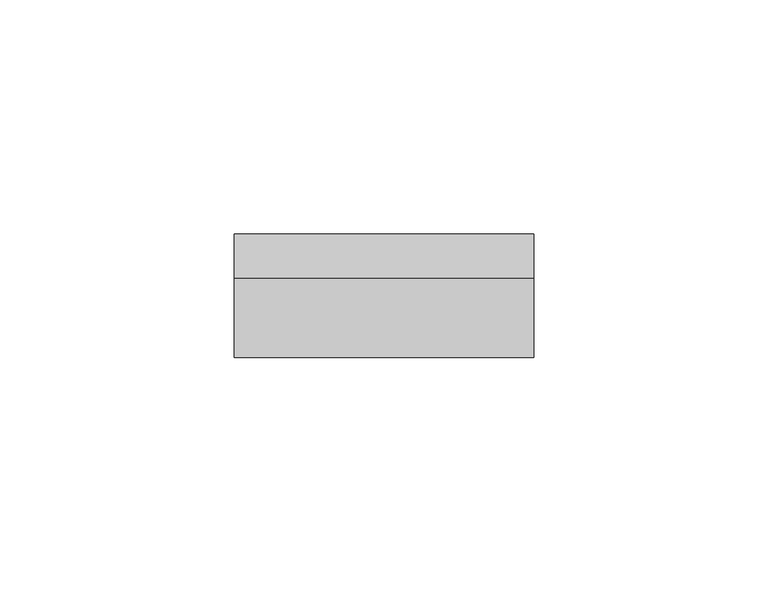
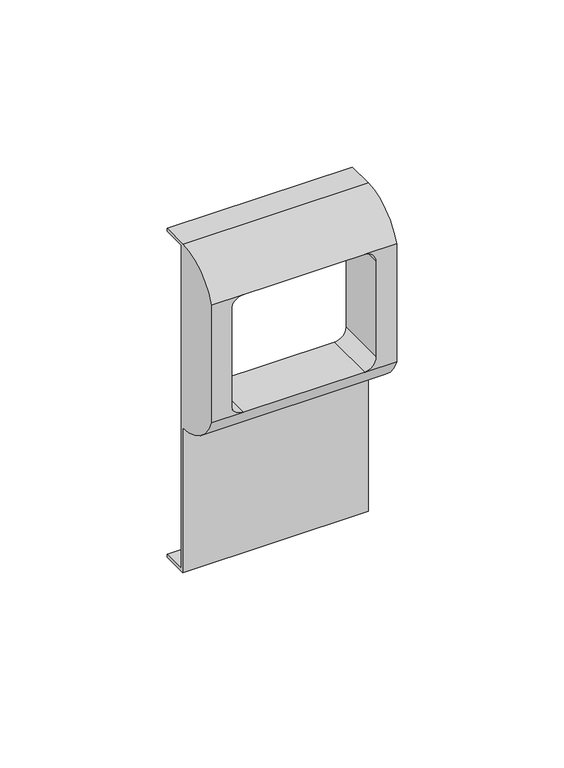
"""IFC4 building model written with IfcOpenShell, lengths in millimetres: proxy geometry."""

from ifc_helpers import new_model, si_unit, frame, origin, place, context, project, spatial, polyline, circle_curve, source, transform, mapped, element, save
from ifc_brep_helpers import plane_surface, cylinder_surface, revolved_surface, advanced_brep


def electrical_fixtures_3ef248d6(model_context):
    return source(origin(), model_context, "Body", "AdvancedBrep", [
        advanced_brep(
        [(32.0, 8.4, 59.0), (32.0, 8.4, 60.0), (32.0, -1.0, 60.0), (32.0, -18.0, 48.0), (32.0, -18.0, 5.0), (32.0, -1.0, -7.0), (32.0, -1.0, -60.0), (32.0, 8.4, -60.0), (32.0, 8.4, -59.0), (32.0, 0.0, -59.0), (32.0, 0.0, 59.0), (-32.0, 8.4, 59.0), (-32.0, 0.0, 59.0), (-32.0, 0.0, -59.0), (-32.0, 8.4, -59.0), (-32.0, 8.4, -60.0), (-32.0, -1.0, -60.0), (-32.0, -1.0, -7.0), (-32.0, -18.0, 5.0), (-32.0, -18.0, 48.0), (-32.0, -1.0, 60.0), (-32.0, 8.4, 60.0), (20.9686648, -18.0, 48.0), (25.0, -18.0, 43.9686648), (25.0, -18.0, 9.0313352), (20.9686648, -18.0, 5.0), (-20.9686648, -18.0, 5.0), (-25.0, -18.0, 9.0313352), (-25.0, -18.0, 43.9686648), (-20.9686648, -18.0, 48.0), (20.9686648, 0.0, 48.0), (-20.9686648, 0.0, 48.0), (-25.0, 0.0, 43.9686648), (-25.0, 0.0, 9.0313352), (-20.9686648, 0.0, 5.0), (20.9686648, 0.0, 5.0), (25.0, 0.0, 9.0313352), (25.0, 0.0, 43.9686648)],
        [
            (0, 1),
            (1, 2),
            (2, 3, circle_curve(frame((32.0, -1.0, 41.9583333), z_axis=(1.0, 0.0, 0.0), x_axis=(0.0, 1.0, 0.0)), 18.0416667)),
            (3, 4),
            (4, 5, circle_curve(frame((32.0, -1.0, 11.0416667), z_axis=(1.0, 0.0, 0.0), x_axis=(0.0, 1.0, 0.0)), 18.0416667)),
            (5, 6),
            (6, 7),
            (7, 8),
            (8, 9),
            (9, 10),
            (10, 0),
            (11, 12),
            (12, 13),
            (13, 14),
            (14, 15),
            (15, 16),
            (16, 17),
            (17, 18, circle_curve(frame((-32.0, -1.0, 11.0416667), z_axis=(-1.0, 0.0, 0.0), x_axis=(0.0, 1.0, 0.0)), 18.0416667)),
            (18, 19),
            (19, 20, circle_curve(frame((-32.0, -1.0, 41.9583333), z_axis=(-1.0, 0.0, 0.0), x_axis=(0.0, 1.0, 0.0)), 18.0416667)),
            (20, 21),
            (21, 11),
            (0, 11),
            (21, 1),
            (20, 2),
            (3, 22),
            (22, 23, circle_curve(frame((20.9686648, -18.0, 43.9686648), z_axis=(0.0, 1.0, 0.0), x_axis=(1.0, 0.0, 0.0)), 4.0313352)),
            (23, 24),
            (24, 25, circle_curve(frame((20.9686648, -18.0, 9.0313352), z_axis=(0.0, 1.0, 0.0), x_axis=(1.0, 0.0, 0.0)), 4.0313352)),
            (25, 4),
            (18, 26),
            (26, 27, circle_curve(frame((-20.9686648, -18.0, 9.0313352), z_axis=(0.0, 1.0, 0.0), x_axis=(1.0, 0.0, 0.0)), 4.0313352)),
            (27, 28),
            (28, 29, circle_curve(frame((-20.9686648, -18.0, 43.9686648), z_axis=(0.0, 1.0, 0.0), x_axis=(1.0, 0.0, 0.0)), 4.0313352)),
            (29, 19),
            (5, 17),
            (16, 6),
            (15, 7),
            (14, 8),
            (13, 9),
            (12, 10),
            (30, 31),
            (31, 32, circle_curve(frame((-20.9686648, 0.0, 43.9686648), z_axis=(0.0, -1.0, 0.0), x_axis=(1.0, 0.0, 0.0)), 4.0313352)),
            (32, 33),
            (33, 34, circle_curve(frame((-20.9686648, 0.0, 9.0313352), z_axis=(0.0, -1.0, 0.0), x_axis=(1.0, 0.0, 0.0)), 4.0313352)),
            (34, 35),
            (35, 36, circle_curve(frame((20.9686648, 0.0, 9.0313352), z_axis=(0.0, -1.0, 0.0), x_axis=(1.0, 0.0, 0.0)), 4.0313352)),
            (36, 37),
            (37, 30, circle_curve(frame((20.9686648, 0.0, 43.9686648), z_axis=(0.0, -1.0, 0.0), x_axis=(1.0, 0.0, 0.0)), 4.0313352)),
            (29, 22),
            (25, 26),
            (29, 31),
            (30, 22),
            (28, 32),
            (27, 33),
            (26, 34),
            (25, 35),
            (24, 36),
            (23, 37),
        ],
        [
            plane_surface(frame((32.0, 8.4, 60.0), z_axis=(1.0, 0.0, 0.0), x_axis=(0.0, 0.0, 1.0))),
            plane_surface(frame((-32.0, 8.4, 60.0), z_axis=(-1.0, 0.0, 0.0), x_axis=(0.0, 0.0, -1.0))),
            plane_surface(frame((32.0, 8.4, 59.0), z_axis=(0.0, 1.0, 0.0), x_axis=(-1.0, 0.0, 0.0))),
            plane_surface(frame((32.0, 8.4, 60.0), z_axis=(0.0, 0.0, 1.0), x_axis=(-1.0, 0.0, 0.0))),
            plane_surface(frame((32.0, -18.0, 48.0), z_axis=(0.0, -1.0, 0.0), x_axis=(-1.0, 0.0, 0.0))),
            plane_surface(frame((32.0, -1.0, -7.0), z_axis=(0.0, -1.0, 0.0), x_axis=(-1.0, 0.0, 0.0))),
            plane_surface(frame((32.0, -1.0, -60.0), z_axis=(0.0, 0.0, -1.0), x_axis=(-1.0, 0.0, 0.0))),
            plane_surface(frame((32.0, 8.4, -60.0), z_axis=(0.0, 1.0, 0.0), x_axis=(-1.0, 0.0, 0.0))),
            plane_surface(frame((32.0, 8.4, -59.0), z_axis=(0.0, 0.0, 1.0), x_axis=(-1.0, 0.0, 0.0))),
            plane_surface(frame((32.0, 0.0, -59.0), z_axis=(0.0, 1.0, 0.0), x_axis=(-1.0, 0.0, 0.0))),
            plane_surface(frame((32.0, 0.0, 59.0), z_axis=(0.0, 0.0, -1.0), x_axis=(-1.0, 0.0, 0.0))),
            cylinder_surface(frame((-32.0, -1.0, 41.9583333), z_axis=(1.0, 0.0, 0.0), x_axis=(0.0, 1.0, 0.0)), 18.0416667),
            cylinder_surface(frame((-32.0, -1.0, 11.0416667), z_axis=(1.0, 0.0, 0.0), x_axis=(0.0, 1.0, 0.0)), 18.0416667),
            plane_surface(frame((20.9686648, -18.0, 48.0), z_axis=(0.0, 0.0, -1.0), x_axis=(0.0, 1.0, 0.0))),
            revolved_surface(polyline([(-16.937329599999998, -18.0, 43.9686648), (-16.937329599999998, 0.0, 43.9686648)]), (-20.9686648, 0.0, 43.9686648), (0.0, -1.0, 0.0)),
            plane_surface(frame((-25.0, -18.0, 43.9686648), z_axis=(1.0, 0.0, 0.0), x_axis=(0.0, 1.0, 0.0))),
            revolved_surface(polyline([(-16.937329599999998, -18.0, 9.0313352), (-16.937329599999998, 0.0, 9.0313352)]), (-20.9686648, 0.0, 9.0313352), (0.0, -1.0, 0.0)),
            plane_surface(frame((-20.9686648, -18.0, 5.0), z_axis=(0.0, 0.0, 1.0), x_axis=(0.0, 1.0, 0.0))),
            revolved_surface(polyline([(25.0, -18.0, 9.0313352), (25.0, 0.0, 9.0313352)]), (20.9686648, 0.0, 9.0313352), (0.0, -1.0, 0.0)),
            plane_surface(frame((25.0, -18.0, 9.0313352), z_axis=(-1.0, 0.0, 0.0), x_axis=(0.0, 1.0, 0.0))),
            revolved_surface(polyline([(25.0, -18.0, 43.9686648), (25.0, 0.0, 43.9686648)]), (20.9686648, 0.0, 43.9686648), (0.0, -1.0, 0.0)),
        ],
        [
            (0, [[1, 2, 3, 4, 5, 6, 7, 8, 9, 10, 11]]),
            (1, [[12, 13, 14, 15, 16, 17, 18, 19, 20, 21, 22]]),
            (2, [[-1, 23, -22, 24]]),
            (3, [[-2, -24, -21, 25]]),
            (4, [[-4, 26, 27, 28, 29, 30]]),
            (4, [[-19, 31, 32, 33, 34, 35]]),
            (5, [[-6, 36, -17, 37]]),
            (6, [[-7, -37, -16, 38]]),
            (7, [[-8, -38, -15, 39]]),
            (8, [[-9, -39, -14, 40]]),
            (9, [[-10, -40, -13, 41], [42, 43, 44, 45, 46, 47, 48, 49]]),
            (10, [[-11, -41, -12, -23]]),
            (11, [[-3, -25, -20, -35, 50, -26]]),
            (12, [[-5, -30, 51, -31, -18, -36]]),
            (13, [[52, -42, 53, -50]]),
            (14, [[-52, -34, 54, -43]]),
            (15, [[-54, -33, 55, -44]]),
            (16, [[-55, -32, 56, -45]]),
            (17, [[-56, -51, 57, -46]]),
            (18, [[-57, -29, 58, -47]]),
            (19, [[-58, -28, 59, -48]]),
            (20, [[-53, -49, -59, -27]]),
        ],
    ),
    ])


if __name__ == "__main__":
    model = new_model("IFC4")
    model_context = context("Model", 3, world=origin())
    ifc_project = project(units=[si_unit("LENGTHUNIT", "METRE", prefix="MILLI")], contexts=[model_context])
    site = spatial("IfcSite", under=ifc_project)
    building = spatial("IfcBuilding", under=site)
    placement = place(None, origin())
    electrical_fixtures_shape = electrical_fixtures_3ef248d6(model_context)
    element("IfcBuildingElementProxy", 1, Name="КНС_РамкаСуппорт_ILC_DKC : Серия \"Brava\"", ObjectType="КНС_РамкаСуппорт_ILC_DKC : Серия \"Brava\"", at=placement, inside=building, context=model_context, shape_type="MappedRepresentation", body=[
        mapped(electrical_fixtures_shape, transform((0.0, 0.0, 0.0), x_axis=(1.0, 0.0, 0.0), y_axis=(0.0, 1.0, 0.0), z_axis=(0.0, 0.0, 1.0))),
    ])
    save(model, "model.ifc")
